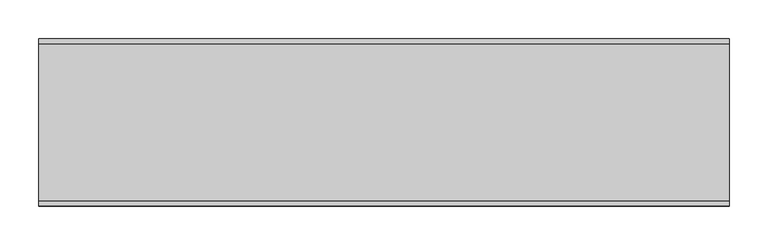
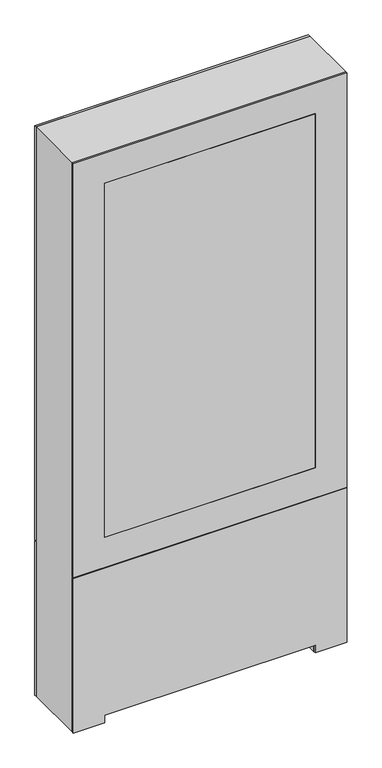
"""IFC4 building model written with IfcOpenShell, lengths in millimetres: proxy geometry."""

from ifc_helpers import new_model, si_unit, frame, origin, place, context, project, spatial, polyline, outline, extrude, source, transform, mapped, element, save


def specialty_equipment_d45c3ff0(model_context):
    return source(origin(), model_context, "Body", "SweptSolid", [
        extrude(outline(polyline([(530.9248528, -445.77), (0.0, -445.77), (0.0, -342.4500946), (25.4, -342.4500946), (25.4, 342.4500946), (0.0, 342.4500946), (0.0, 445.77), (530.9248528, 445.77), (530.9248528, -445.77)])), frame((0.0, -107.95, 0.0), z_axis=(0.0, 1.0, 0.0), x_axis=(0.0, 0.0, 1.0)), (0.0, 0.0, 1.0), 6.35),
        extrude(outline(polyline([(530.9248528, -445.77), (0.0, -445.77), (0.0, -342.4500946), (25.4, -342.4500946), (25.4, 342.4500946), (0.0, 342.4500946), (0.0, 445.77), (530.9248528, 445.77), (530.9248528, -445.77)])), frame((0.0, 101.6, 0.0), z_axis=(0.0, 1.0, 0.0), x_axis=(0.0, 0.0, 1.0)), (0.0, 0.0, 1.0), 6.35),
        extrude(outline(polyline([(342.4500946, 101.6), (-342.4500946, 101.6), (-342.4500946, 107.95), (342.4500946, 107.95), (342.4500946, 101.6)])), frame((0.0, 0.0, 637.4197582), z_axis=(0.0, 0.0, 1.0), x_axis=(1.0, 0.0, 0.0)), (0.0, 0.0, 1.0), 1217.6003364),
        extrude(outline(polyline([(342.4500946, -107.95), (-342.4500946, -107.95), (-342.4500946, -101.6), (342.4500946, -101.6), (342.4500946, -107.95)])), frame((0.0, 0.0, 637.4197582), z_axis=(0.0, 0.0, 1.0), x_axis=(1.0, 0.0, 0.0)), (0.0, 0.0, 1.0), 1217.6003364),
        extrude(outline(polyline([(1958.34, 445.77), (1958.34, -445.77), (534.0998528, -445.77), (534.0998528, 445.77), (1958.34, 445.77)]), holes=[polyline([(637.4197582, -342.4500946), (1855.0200946, -342.4500946), (1855.0200946, 342.4500946), (637.4197582, 342.4500946), (637.4197582, -342.4500946)])]), frame((0.0, 101.6, 0.0), z_axis=(0.0, 1.0, 0.0), x_axis=(0.0, 0.0, 1.0)), (0.0, 0.0, 1.0), 6.35),
        extrude(outline(polyline([(1958.34, 445.77), (1958.34, -445.77), (534.0998528, -445.77), (534.0998528, 445.77), (1958.34, 445.77)]), holes=[polyline([(637.4197582, -342.4500946), (1855.0200946, -342.4500946), (1855.0200946, 342.4500946), (637.4197582, 342.4500946), (637.4197582, -342.4500946)])]), frame((0.0, -107.95, 0.0), z_axis=(0.0, 1.0, 0.0), x_axis=(0.0, 0.0, 1.0)), (0.0, 0.0, 1.0), 6.35),
        extrude(outline(polyline([(1958.34, 445.77), (1958.34, -445.77), (0.0, -445.77), (0.0, -342.4500946), (25.4, -342.4500946), (25.4, 342.4500946), (0.0, 342.4500946), (0.0, 445.77), (1958.34, 445.77)])), frame((0.0, -101.6, 0.0), z_axis=(0.0, 1.0, 0.0), x_axis=(0.0, 0.0, 1.0)), (0.0, 0.0, 1.0), 203.2),
    ])


if __name__ == "__main__":
    model = new_model("IFC4")
    model_context = context("Model", 3, world=origin())
    ifc_project = project(units=[si_unit("LENGTHUNIT", "METRE", prefix="MILLI")], contexts=[model_context])
    site = spatial("IfcSite", under=ifc_project)
    building = spatial("IfcBuilding", under=site)
    placement = place(None, origin())
    specialty_equipment_shape = specialty_equipment_d45c3ff0(model_context)
    element("IfcBuildingElementProxy", 1, Name="Kiosk-Floor_Mounted-Chief-Impact-Portrait : 55\" Back to Back Kiosk, White", ObjectType="Kiosk-Floor_Mounted-Chief-Impact-Portrait : 55\" Back to Back Kiosk, White", at=placement, inside=building, context=model_context, shape_type="MappedRepresentation", body=[
        mapped(specialty_equipment_shape, transform((0.0, 0.0, 0.0), x_axis=(1.0, 0.0, 0.0), y_axis=(0.0, 1.0, 0.0), z_axis=(0.0, 0.0, 1.0))),
    ])
    save(model, "model.ifc")
